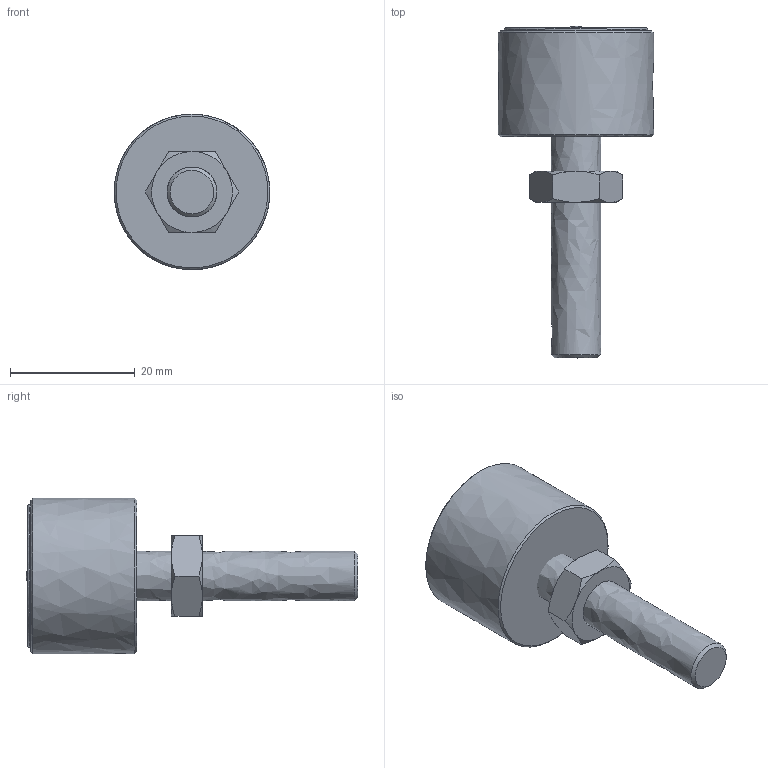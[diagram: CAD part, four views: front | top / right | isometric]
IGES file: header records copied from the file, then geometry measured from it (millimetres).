
Global section: file name: 25.00; native system: Autodesk Inventor 2016; preprocessor: unknown; author: CAD5; date: 20160830.122757; units: millimetre
Bounding box: 25 x 53.33 x 25 mm (x, y, z)
Volume: 10145.1 mm3; surface area: 6540.3 mm2
Topology: 7 solids, 7 shells, 68 faces, 157 edges, 102 vertices
Faces by surface type: bspline 68
